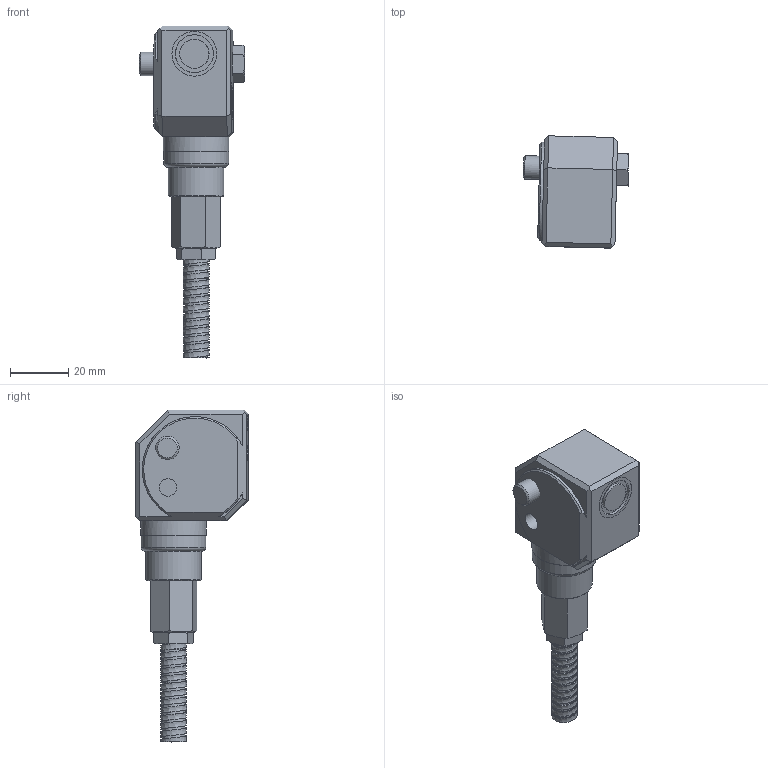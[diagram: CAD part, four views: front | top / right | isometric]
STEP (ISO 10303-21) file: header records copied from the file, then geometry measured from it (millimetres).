
FILE_DESCRIPTION(/* description */ (''),/* implementation_level */ '2;1');
FILE_NAME(/* name */ 'Z:\Engineering\Drawings\3D Library\Assemblies\Website\Triaxial Side\HS-173 HFFR Conduit\HS-173XXX37C08.stp',/* time_stamp */ '2023-03-25T21:00:51+00:00',/* author */ ('Ricardo.Peneda'),/* organization */ (''),/* preprocessor_version */ 'ST-DEVELOPER v18.1',/* originating_system */ 'Autodesk Inventor 2021',/* authorisation */ '');
FILE_SCHEMA (('AUTOMOTIVE_DESIGN { 1 0 10303 214 3 1 1 }'));
Length unit declared in the file: inch
Products named in the file (1): HS-173XXX37C08_Shrinkwrap_1
Bounding box: 36.21 x 38.44 x 113.69 mm (x, y, z)
Volume: 31948.5 mm3; surface area: 21327 mm2
Topology: 8 solids, 8 shells, 166 faces, 420 edges, 298 vertices
Faces by surface type: plane 87, cylinder 38, cone 31, bspline 8, torus 2
Full cylindrical faces by diameter (mm): 4.5 x1, 6 x2, 6.5 x1, 7 x1, 7.9 x2, 8 x1, 8.6 x1, 9 x1, 10 x2, 10.2 x1, 11.959 x1, 12 x3, 13 x2, 14 x2, 14.95 x3, 15 x2, 15.34 x2, 15.35 x2, 18 x1, 19 x1, 19.95 x1, 20.23 x1, 22.2 x1, 22.43 x1
Entity records: 19313 total; most frequent: CARTESIAN_POINT 15016, DIRECTION 868, ORIENTED_EDGE 840, EDGE_CURVE 420, AXIS2_PLACEMENT_3D 352, VERTEX_POINT 298, EDGE_LOOP 200, CIRCLE 187
